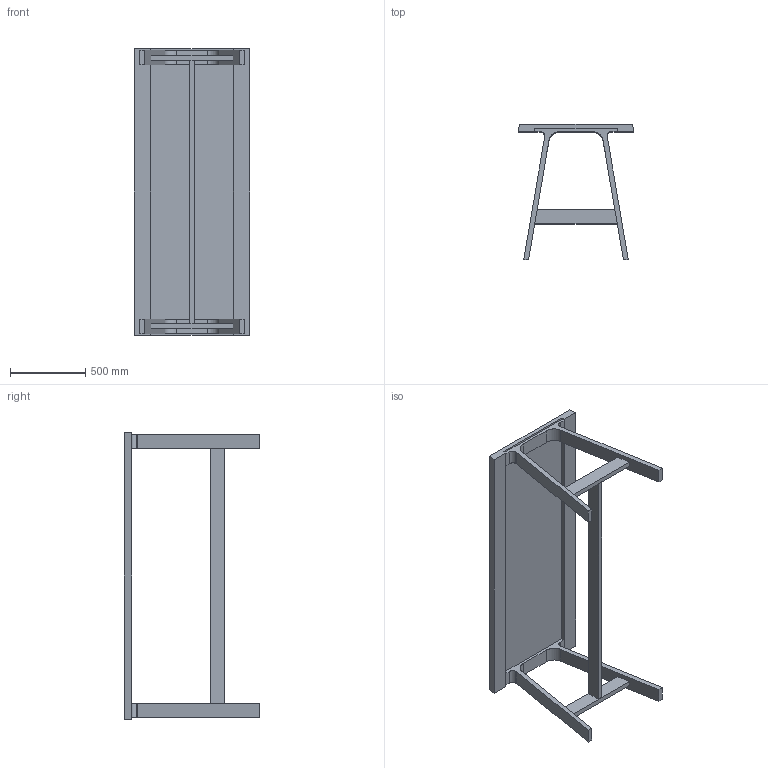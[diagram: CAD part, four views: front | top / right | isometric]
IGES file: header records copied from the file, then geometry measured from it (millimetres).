
Start section: SolidWorks IGES file using analytic representation for surfaces
Global section: file name: G:\Product Info\Doble\3D\igs\Doble buffet 190x75x110.IGS; native system: SolidWorks 2013; preprocessor: SolidWorks 2013; author: remko; date: 131216.130204; units: millimetre
Bounding box: 767.63 x 900 x 1900 mm (x, y, z)
Surface area: 5024922.9 mm2 (no closed solid volume)
Topology: 0 solids, 0 shells, 62 faces, 436 edges, 436 vertices
Faces by surface type: bspline 52, revolution 10
